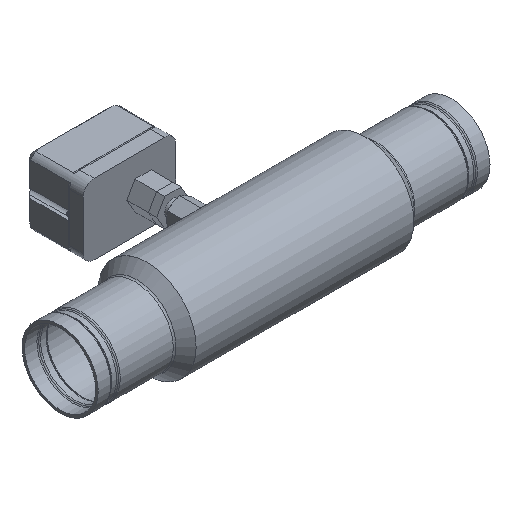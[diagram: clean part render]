
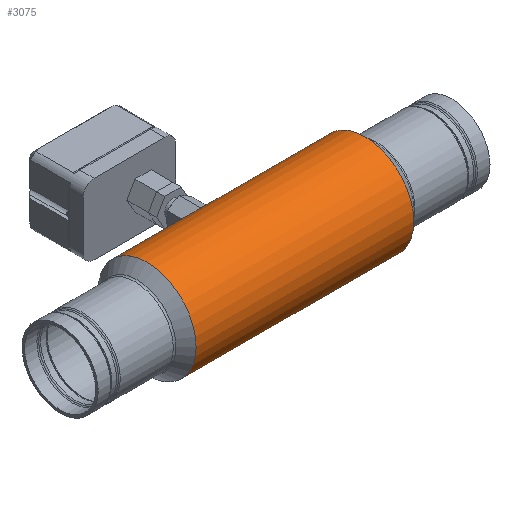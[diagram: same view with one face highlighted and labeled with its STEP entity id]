
A CAD part, isometric view. The second image highlights one B-rep face of the part: STEP entity #3075.
In plain terms, the highlighted cylindrical face has radius 57.15 mm (diameter 114.3 mm), a full revolution.
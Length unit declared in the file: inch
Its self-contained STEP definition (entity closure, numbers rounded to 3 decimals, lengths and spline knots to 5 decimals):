
#93=FACE_BOUND('',#462,.T.);
#178=CYLINDRICAL_SURFACE('',#3382,2.25);
#286=FACE_OUTER_BOUND('',#461,.T.);
#461=EDGE_LOOP('',(#2368,#2369,#2370,#2371,#2372,#2373));
#462=EDGE_LOOP('',(#2374,#2375));
#663=CIRCLE('',#3377,2.25);
#664=CIRCLE('',#3378,2.25);
#665=CIRCLE('',#3380,2.25);
#666=CIRCLE('',#3381,2.25);
#776=B_SPLINE_CURVE_WITH_KNOTS('',3,(#14952,#14953,#14954,#14955,#14956,
#14957,#14958,#14959,#14960,#14961,#14962,#14963,#14964,#14965,#14966,#14967,
#14968,#14969,#14970,#14971,#14972,#14973,#14974,#14975,#14976,#14977),
 .UNSPECIFIED.,.F.,.F.,(4,2,2,2,2,2,2,2,2,2,2,2,4),(0.,0.20909,
0.41819,0.62735,0.83652,1.04568,
1.25485,1.46394,1.67303,1.88212,2.09122,
2.30038,2.50955),.UNSPECIFIED.);
#777=B_SPLINE_CURVE_WITH_KNOTS('',3,(#14978,#14979,#14980,#14981,#14982,
#14983,#14984,#14985,#14986,#14987),.UNSPECIFIED.,.F.,.F.,(4,2,2,2,4),(2.50955,
2.71871,2.92788,3.13697,3.34606),
 .UNSPECIFIED.);
#842=LINE('',#15191,#1009);
#1009=VECTOR('',#3980,2.25);
#1224=VERTEX_POINT('',#14950);
#1225=VERTEX_POINT('',#14951);
#1290=VERTEX_POINT('',#15181);
#1291=VERTEX_POINT('',#15182);
#1292=VERTEX_POINT('',#15186);
#1293=VERTEX_POINT('',#15187);
#1575=EDGE_CURVE('',#1224,#1225,#776,.T.);
#1576=EDGE_CURVE('',#1225,#1224,#777,.T.);
#1673=EDGE_CURVE('',#1290,#1291,#663,.T.);
#1674=EDGE_CURVE('',#1291,#1290,#664,.T.);
#1675=EDGE_CURVE('',#1292,#1293,#665,.T.);
#1676=EDGE_CURVE('',#1293,#1292,#666,.T.);
#1677=EDGE_CURVE('',#1293,#1291,#842,.T.);
#2368=ORIENTED_EDGE('',*,*,#1675,.F.);
#2369=ORIENTED_EDGE('',*,*,#1676,.F.);
#2370=ORIENTED_EDGE('',*,*,#1677,.T.);
#2371=ORIENTED_EDGE('',*,*,#1673,.F.);
#2372=ORIENTED_EDGE('',*,*,#1674,.F.);
#2373=ORIENTED_EDGE('',*,*,#1677,.F.);
#2374=ORIENTED_EDGE('',*,*,#1575,.T.);
#2375=ORIENTED_EDGE('',*,*,#1576,.T.);
#3075=ADVANCED_FACE('',(#286,#93),#178,.T.);
#3377=AXIS2_PLACEMENT_3D('',#15183,#3968,#3969);
#3378=AXIS2_PLACEMENT_3D('',#15184,#3970,#3971);
#3380=AXIS2_PLACEMENT_3D('',#15188,#3974,#3975);
#3381=AXIS2_PLACEMENT_3D('',#15189,#3976,#3977);
#3382=AXIS2_PLACEMENT_3D('',#15190,#3978,#3979);
#3968=DIRECTION('center_axis',(-1.,0.,0.));
#3969=DIRECTION('ref_axis',(0.,1.,0.));
#3970=DIRECTION('center_axis',(-1.,0.,0.));
#3971=DIRECTION('ref_axis',(0.,1.,0.));
#3974=DIRECTION('center_axis',(1.,0.,0.));
#3975=DIRECTION('ref_axis',(0.,1.,0.));
#3976=DIRECTION('center_axis',(1.,0.,0.));
#3977=DIRECTION('ref_axis',(0.,1.,0.));
#3978=DIRECTION('center_axis',(1.,0.,0.));
#3979=DIRECTION('ref_axis',(0.,1.,0.));
#3980=DIRECTION('',(-1.,0.,0.));
#14950=CARTESIAN_POINT('',(9.94564,5.08346,3.03076));
#14951=CARTESIAN_POINT('',(10.16424,5.09407,2.8125));
#14952=CARTESIAN_POINT('Ctrl Pts',(9.94564,5.08346,3.03076));
#14953=CARTESIAN_POINT('Ctrl Pts',(9.9182,5.08346,3.03076));
#14954=CARTESIAN_POINT('Ctrl Pts',(9.88894,5.08401,3.02529));
#14955=CARTESIAN_POINT('Ctrl Pts',(9.83511,5.08601,3.00304));
#14956=CARTESIAN_POINT('Ctrl Pts',(9.81055,5.08743,2.98626));
#14957=CARTESIAN_POINT('Ctrl Pts',(9.77173,5.0901,2.94754));
#14958=CARTESIAN_POINT('Ctrl Pts',(9.7549,5.09151,2.92301));
#14959=CARTESIAN_POINT('Ctrl Pts',(9.73255,5.09351,2.86921));
#14960=CARTESIAN_POINT('Ctrl Pts',(9.72705,5.09407,2.83995));
#14961=CARTESIAN_POINT('Ctrl Pts',(9.72705,5.09407,2.78505));
#14962=CARTESIAN_POINT('Ctrl Pts',(9.73255,5.09351,2.75579));
#14963=CARTESIAN_POINT('Ctrl Pts',(9.7549,5.09151,2.70199));
#14964=CARTESIAN_POINT('Ctrl Pts',(9.77173,5.0901,2.67746));
#14965=CARTESIAN_POINT('Ctrl Pts',(9.81055,5.08743,2.63874));
#14966=CARTESIAN_POINT('Ctrl Pts',(9.83511,5.08601,2.62196));
#14967=CARTESIAN_POINT('Ctrl Pts',(9.88894,5.08401,2.59971));
#14968=CARTESIAN_POINT('Ctrl Pts',(9.9182,5.08346,2.59424));
#14969=CARTESIAN_POINT('Ctrl Pts',(9.97308,5.08346,2.59424));
#14970=CARTESIAN_POINT('Ctrl Pts',(10.00234,5.08401,2.59971));
#14971=CARTESIAN_POINT('Ctrl Pts',(10.05617,5.08601,2.62196));
#14972=CARTESIAN_POINT('Ctrl Pts',(10.08074,5.08743,2.63874));
#14973=CARTESIAN_POINT('Ctrl Pts',(10.11955,5.0901,2.67746));
#14974=CARTESIAN_POINT('Ctrl Pts',(10.13639,5.09151,2.70199));
#14975=CARTESIAN_POINT('Ctrl Pts',(10.15873,5.09351,2.75579));
#14976=CARTESIAN_POINT('Ctrl Pts',(10.16424,5.09407,2.78505));
#14977=CARTESIAN_POINT('Ctrl Pts',(10.16424,5.09407,2.8125));
#14978=CARTESIAN_POINT('Ctrl Pts',(10.16424,5.09407,2.8125));
#14979=CARTESIAN_POINT('Ctrl Pts',(10.16424,5.09407,2.83995));
#14980=CARTESIAN_POINT('Ctrl Pts',(10.15873,5.09351,2.86921));
#14981=CARTESIAN_POINT('Ctrl Pts',(10.13639,5.09151,2.92301));
#14982=CARTESIAN_POINT('Ctrl Pts',(10.11955,5.0901,2.94754));
#14983=CARTESIAN_POINT('Ctrl Pts',(10.08074,5.08743,2.98626));
#14984=CARTESIAN_POINT('Ctrl Pts',(10.05617,5.08601,3.00304));
#14985=CARTESIAN_POINT('Ctrl Pts',(10.00234,5.08401,3.02529));
#14986=CARTESIAN_POINT('Ctrl Pts',(9.97308,5.08346,3.03076));
#14987=CARTESIAN_POINT('Ctrl Pts',(9.94564,5.08346,3.03076));
#15181=CARTESIAN_POINT('',(4.94564,5.09407,2.8125));
#15182=CARTESIAN_POINT('',(4.94564,0.59407,2.8125));
#15183=CARTESIAN_POINT('Origin',(4.94564,2.84407,2.8125));
#15184=CARTESIAN_POINT('Origin',(4.94564,2.84407,2.8125));
#15186=CARTESIAN_POINT('',(14.94564,5.09407,2.8125));
#15187=CARTESIAN_POINT('',(14.94564,0.59407,2.8125));
#15188=CARTESIAN_POINT('Origin',(14.94564,2.84407,2.8125));
#15189=CARTESIAN_POINT('Origin',(14.94564,2.84407,2.8125));
#15190=CARTESIAN_POINT('Origin',(9.94564,2.84407,2.8125));
#15191=CARTESIAN_POINT('',(9.94564,0.59407,2.8125));
